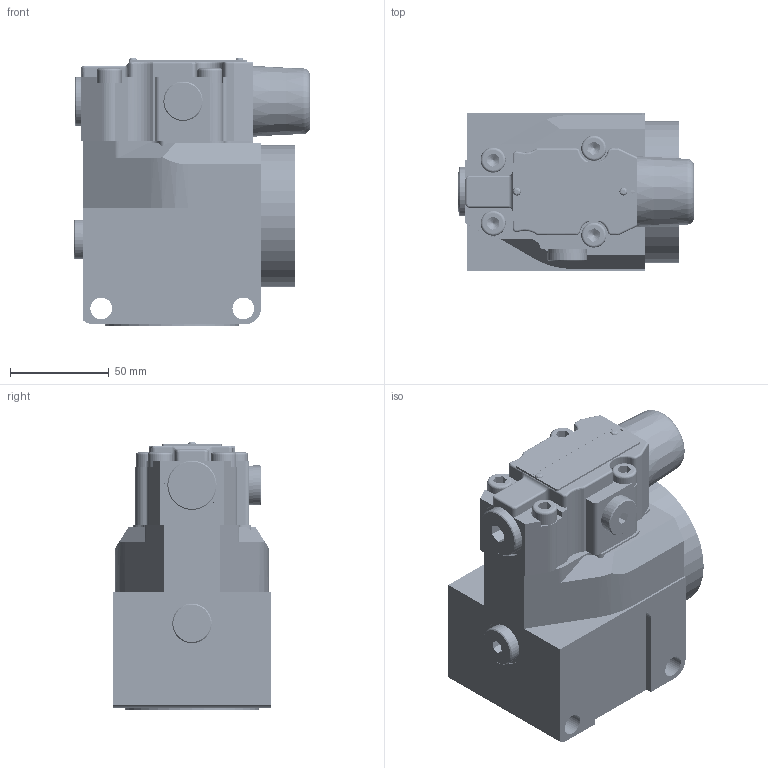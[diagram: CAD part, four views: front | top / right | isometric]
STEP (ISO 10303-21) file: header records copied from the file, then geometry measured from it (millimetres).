
FILE_DESCRIPTION(/* description */ (''),/* implementation_level */ '2;1');
FILE_NAME(/* name */ 'DB10G-5XJ管式溢流阀.prt.stp',/* time_stamp */ '2022-03-30T20:08:54+08:00',/* author */ (''),/* organization */ (''),/* preprocessor_version */ 'ST-DEVELOPER v16.7',/* originating_system */ 'SIEMENS PLM Software NX 12.0',/* authorisation */ '');
FILE_SCHEMA (('AUTOMOTIVE_DESIGN { 1 0 10303 214 3 1 1 1 }'));
Products named in the file (1): DB10G-5XJ管式溢流阀
Bounding box: 120 x 80 x 136 mm (x, y, z)
Volume: 656387.9 mm3; surface area: 129509.3 mm2
Topology: 23 solids, 25 shells, 658 faces, 1618 edges, 1040 vertices
Faces by surface type: cylinder 264, plane 264, bspline 54, cone 44, torus 30, sphere 2
Full cylindrical faces by diameter (mm): 1.8 x4, 1.9 x2, 2 x1, 3 x3, 4.2 x11, 6.7 x46, 7 x1, 8 x1, 8.4 x4, 9.5 x1, 11 x4, 11.5 x7, 12 x1, 12.2 x2, 12.73 x4, 13 x1, 14.3 x2, 15.9 x1, 16 x2, 16.1 x1, 16.5 x1, 17.5 x4, 18.3 x1, 19 x3, 19.7 x2, 20 x2, 20.5 x1, 20.755 x1, 22 x2, 23 x1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
Entity records: 86727 total; most frequent: CARTESIAN_POINT 73402, DIRECTION 2524, ORIENTED_EDGE 2496, EDGE_CURVE 1248, AXIS2_PLACEMENT_3D 1003, VERTEX_POINT 867, EDGE_LOOP 791, ADVANCED_FACE 595
